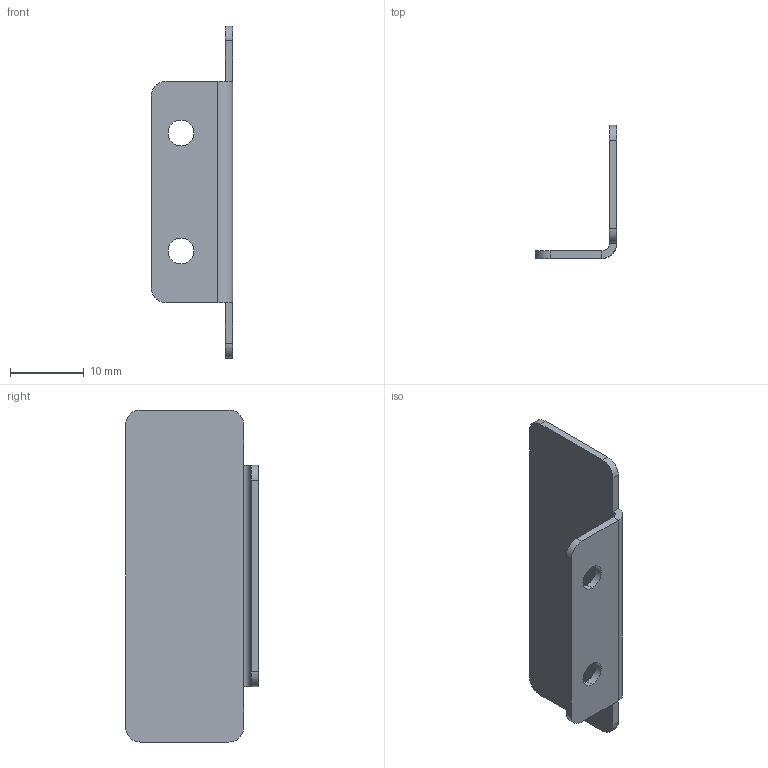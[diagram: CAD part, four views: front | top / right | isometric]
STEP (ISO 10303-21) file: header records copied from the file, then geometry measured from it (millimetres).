
FILE_DESCRIPTION (( 'STEP AP214' ), '1' );
FILE_NAME ('JYXJ-000-005-004-A 揖楷盓殤1.STEP', '2025-06-19T08:40:40', ( '' ), ( '' ), 'SwSTEP 2.0', 'SolidWorks 2020', '' );
FILE_SCHEMA (( 'AUTOMOTIVE_DESIGN' ));
Length unit declared in the file: millimetre
Products named in the file (1): JYXJ-000-005-004-A 揖楷盓殤1
Bounding box: 11 x 18 x 45 mm (x, y, z)
Volume: 1036.3 mm3; surface area: 2234.1 mm2
Topology: 1 solids, 1 shells, 26 faces, 64 edges, 40 vertices
Faces by surface type: plane 14, cylinder 12
Entity records: 810 total; most frequent: DIRECTION 142, CARTESIAN_POINT 131, ORIENTED_EDGE 128, EDGE_CURVE 64, AXIS2_PLACEMENT_3D 51, LINE 40, VERTEX_POINT 40, VECTOR 40
